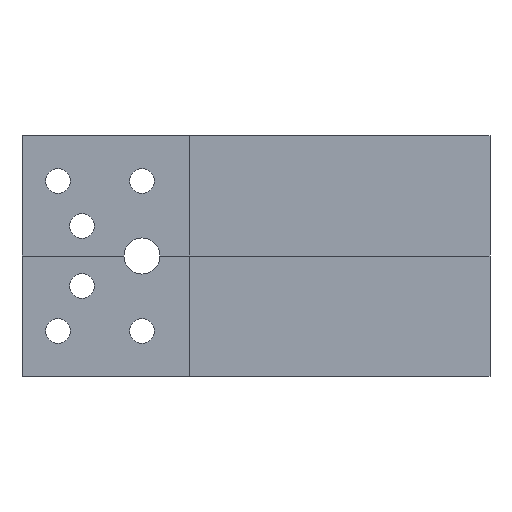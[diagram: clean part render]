
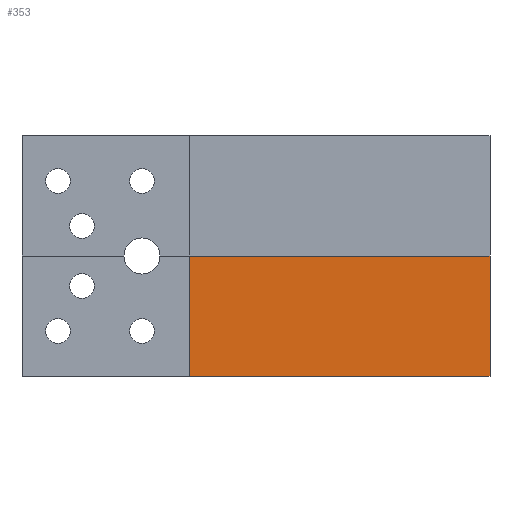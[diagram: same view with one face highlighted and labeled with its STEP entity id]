
A CAD part, left-side view. The second image highlights one B-rep face of the part: STEP entity #353.
In plain terms, the highlighted planar face has unit normal (-1, 0, 0).
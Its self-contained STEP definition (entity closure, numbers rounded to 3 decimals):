
#32 = PLANE('',#33);
#33 = AXIS2_PLACEMENT_3D('',#34,#35,#36);
#34 = CARTESIAN_POINT('',(-6.005,-36.553,10.));
#35 = DIRECTION('',(-0.,0.,-1.));
#36 = DIRECTION('',(-1.,0.,0.));
#57 = VERTEX_POINT('',#58);
#58 = CARTESIAN_POINT('',(-16.005,-86.553,10.));
#72 = PLANE('',#73);
#73 = AXIS2_PLACEMENT_3D('',#74,#75,#76);
#74 = CARTESIAN_POINT('',(-6.005,-86.553,10.));
#75 = DIRECTION('',(0.,1.,0.));
#76 = DIRECTION('',(0.,0.,1.));
#84 = EDGE_CURVE('',#85,#57,#87,.T.);
#85 = VERTEX_POINT('',#86);
#86 = CARTESIAN_POINT('',(-16.005,-36.553,10.));
#87 = SURFACE_CURVE('',#88,(#92,#99),.PCURVE_S1.);
#88 = LINE('',#89,#90);
#89 = CARTESIAN_POINT('',(-16.005,-36.553,10.));
#90 = VECTOR('',#91,1.);
#91 = DIRECTION('',(-0.,-1.,0.));
#92 = PCURVE('',#32,#93);
#93 = DEFINITIONAL_REPRESENTATION('',(#94),#98);
#94 = LINE('',#95,#96);
#95 = CARTESIAN_POINT('',(10.,0.));
#96 = VECTOR('',#97,1.);
#97 = DIRECTION('',(0.,-1.));
#98 = ( GEOMETRIC_REPRESENTATION_CONTEXT(2) 
PARAMETRIC_REPRESENTATION_CONTEXT() REPRESENTATION_CONTEXT('2D SPACE',''
  ) );
#99 = PCURVE('',#100,#105);
#100 = PLANE('',#101);
#101 = AXIS2_PLACEMENT_3D('',#102,#103,#104);
#102 = CARTESIAN_POINT('',(-16.005,-36.553,10.));
#103 = DIRECTION('',(-1.,0.,0.));
#104 = DIRECTION('',(0.,0.,1.));
#105 = DEFINITIONAL_REPRESENTATION('',(#106),#110);
#106 = LINE('',#107,#108);
#107 = CARTESIAN_POINT('',(0.,0.));
#108 = VECTOR('',#109,1.);
#109 = DIRECTION('',(0.,-1.));
#110 = ( GEOMETRIC_REPRESENTATION_CONTEXT(2) 
PARAMETRIC_REPRESENTATION_CONTEXT() REPRESENTATION_CONTEXT('2D SPACE',''
  ) );
#287 = PLANE('',#288);
#288 = AXIS2_PLACEMENT_3D('',#289,#290,#291);
#289 = CARTESIAN_POINT('',(-16.005,-14.053,30.));
#290 = DIRECTION('',(1.,0.,0.));
#291 = DIRECTION('',(0.,0.,-1.));
#304 = EDGE_CURVE('',#57,#305,#307,.T.);
#305 = VERTEX_POINT('',#306);
#306 = CARTESIAN_POINT('',(-16.005,-86.553,30.));
#307 = SURFACE_CURVE('',#308,(#312,#319),.PCURVE_S1.);
#308 = LINE('',#309,#310);
#309 = CARTESIAN_POINT('',(-16.005,-86.553,10.));
#310 = VECTOR('',#311,1.);
#311 = DIRECTION('',(0.,0.,1.));
#312 = PCURVE('',#72,#313);
#313 = DEFINITIONAL_REPRESENTATION('',(#314),#318);
#314 = LINE('',#315,#316);
#315 = CARTESIAN_POINT('',(0.,-10.));
#316 = VECTOR('',#317,1.);
#317 = DIRECTION('',(1.,0.));
#318 = ( GEOMETRIC_REPRESENTATION_CONTEXT(2) 
PARAMETRIC_REPRESENTATION_CONTEXT() REPRESENTATION_CONTEXT('2D SPACE',''
  ) );
#319 = PCURVE('',#100,#320);
#320 = DEFINITIONAL_REPRESENTATION('',(#321),#325);
#321 = LINE('',#322,#323);
#322 = CARTESIAN_POINT('',(0.,-50.));
#323 = VECTOR('',#324,1.);
#324 = DIRECTION('',(1.,0.));
#325 = ( GEOMETRIC_REPRESENTATION_CONTEXT(2) 
PARAMETRIC_REPRESENTATION_CONTEXT() REPRESENTATION_CONTEXT('2D SPACE',''
  ) );
#353 = ADVANCED_FACE('',(#354),#100,.T.);
#354 = FACE_BOUND('',#355,.T.);
#355 = EDGE_LOOP('',(#356,#357,#358,#386));
#356 = ORIENTED_EDGE('',*,*,#84,.T.);
#357 = ORIENTED_EDGE('',*,*,#304,.T.);
#358 = ORIENTED_EDGE('',*,*,#359,.F.);
#359 = EDGE_CURVE('',#360,#305,#362,.T.);
#360 = VERTEX_POINT('',#361);
#361 = CARTESIAN_POINT('',(-16.005,-36.553,30.));
#362 = SURFACE_CURVE('',#363,(#367,#374),.PCURVE_S1.);
#363 = LINE('',#364,#365);
#364 = CARTESIAN_POINT('',(-16.005,-36.553,30.));
#365 = VECTOR('',#366,1.);
#366 = DIRECTION('',(-0.,-1.,0.));
#367 = PCURVE('',#100,#368);
#368 = DEFINITIONAL_REPRESENTATION('',(#369),#373);
#369 = LINE('',#370,#371);
#370 = CARTESIAN_POINT('',(20.,0.));
#371 = VECTOR('',#372,1.);
#372 = DIRECTION('',(0.,-1.));
#373 = ( GEOMETRIC_REPRESENTATION_CONTEXT(2) 
PARAMETRIC_REPRESENTATION_CONTEXT() REPRESENTATION_CONTEXT('2D SPACE',''
  ) );
#374 = PCURVE('',#375,#380);
#375 = PLANE('',#376);
#376 = AXIS2_PLACEMENT_3D('',#377,#378,#379);
#377 = CARTESIAN_POINT('',(-16.005,-36.553,30.));
#378 = DIRECTION('',(-1.,0.,0.));
#379 = DIRECTION('',(0.,0.,1.));
#380 = DEFINITIONAL_REPRESENTATION('',(#381),#385);
#381 = LINE('',#382,#383);
#382 = CARTESIAN_POINT('',(0.,0.));
#383 = VECTOR('',#384,1.);
#384 = DIRECTION('',(0.,-1.));
#385 = ( GEOMETRIC_REPRESENTATION_CONTEXT(2) 
PARAMETRIC_REPRESENTATION_CONTEXT() REPRESENTATION_CONTEXT('2D SPACE',''
  ) );
#386 = ORIENTED_EDGE('',*,*,#387,.F.);
#387 = EDGE_CURVE('',#85,#360,#388,.T.);
#388 = SURFACE_CURVE('',#389,(#393,#400),.PCURVE_S1.);
#389 = LINE('',#390,#391);
#390 = CARTESIAN_POINT('',(-16.005,-36.553,10.));
#391 = VECTOR('',#392,1.);
#392 = DIRECTION('',(0.,0.,1.));
#393 = PCURVE('',#100,#394);
#394 = DEFINITIONAL_REPRESENTATION('',(#395),#399);
#395 = LINE('',#396,#397);
#396 = CARTESIAN_POINT('',(0.,0.));
#397 = VECTOR('',#398,1.);
#398 = DIRECTION('',(1.,0.));
#399 = ( GEOMETRIC_REPRESENTATION_CONTEXT(2) 
PARAMETRIC_REPRESENTATION_CONTEXT() REPRESENTATION_CONTEXT('2D SPACE',''
  ) );
#400 = PCURVE('',#287,#401);
#401 = DEFINITIONAL_REPRESENTATION('',(#402),#406);
#402 = LINE('',#403,#404);
#403 = CARTESIAN_POINT('',(20.,-22.5));
#404 = VECTOR('',#405,1.);
#405 = DIRECTION('',(-1.,0.));
#406 = ( GEOMETRIC_REPRESENTATION_CONTEXT(2) 
PARAMETRIC_REPRESENTATION_CONTEXT() REPRESENTATION_CONTEXT('2D SPACE',''
  ) );
